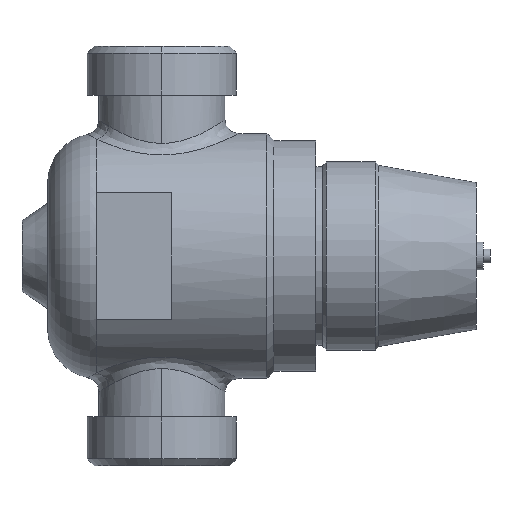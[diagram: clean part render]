
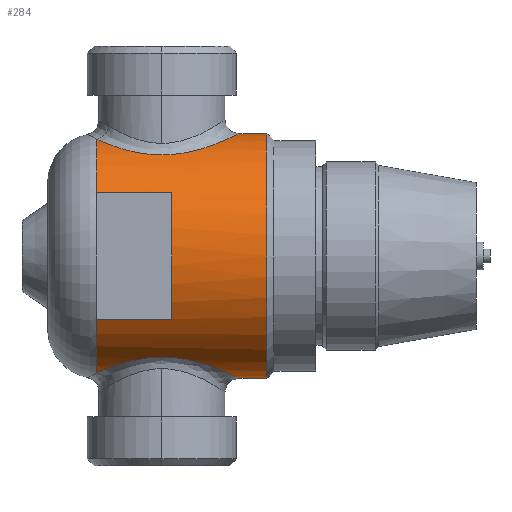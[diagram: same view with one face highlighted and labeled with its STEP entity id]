
A CAD part, left-side view. The second image highlights one B-rep face of the part: STEP entity #284.
In plain terms, the highlighted cylindrical face has radius 17.5 mm (diameter 35 mm), a partial arc.
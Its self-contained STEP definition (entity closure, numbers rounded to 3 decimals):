
#149=CARTESIAN_POINT('',(0.0,-0.199,30.0));
#150=DIRECTION('',(0.,1.0,0.));
#151=DIRECTION('',(0.0,0.0,-1.0));
#152=AXIS2_PLACEMENT_3D('',#149,#150,#151);
#153=CYLINDRICAL_SURFACE('',#152,17.5);
#154=CARTESIAN_POINT('',(0.0,-15.0,12.5));
#155=VERTEX_POINT('',#154);
#156=CARTESIAN_POINT('',(0.,-11.,12.5));
#157=VERTEX_POINT('',#156);
#158=CARTESIAN_POINT('',(0.0,-15.0,12.5));
#159=DIRECTION('',(0.0,1.0,0.0));
#160=VECTOR('',#159,4.);
#161=LINE('',#158,#160);
#162=EDGE_CURVE('',#155,#157,#161,.T.);
#163=ORIENTED_EDGE('',*,*,#162,.F.);
#164=CARTESIAN_POINT('',(0.,-15.,47.5));
#165=VERTEX_POINT('',#164);
#166=CARTESIAN_POINT('',(0.0,-15.0,30.0));
#167=DIRECTION('',(0.0,-1.0,0.0));
#168=DIRECTION('',(0.0,0.0,-1.0));
#169=AXIS2_PLACEMENT_3D('',#166,#167,#168);
#170=CIRCLE('',#169,17.5);
#171=EDGE_CURVE('',#165,#155,#170,.T.);
#172=ORIENTED_EDGE('',*,*,#171,.F.);
#173=CARTESIAN_POINT('',(0.,-11.,47.5));
#174=VERTEX_POINT('',#173);
#175=CARTESIAN_POINT('',(0.,-11.,47.5));
#176=DIRECTION('',(0.0,-1.0,0.0));
#177=VECTOR('',#176,4.0);
#178=LINE('',#175,#177);
#179=EDGE_CURVE('',#174,#165,#178,.T.);
#180=ORIENTED_EDGE('',*,*,#179,.F.);
#181=CARTESIAN_POINT('',(-9.872,0.0,44.45));
#182=VERTEX_POINT('',#181);
#183=CARTESIAN_POINT('',(0.,-11.,47.5));
#184=CARTESIAN_POINT('',(-0.519,-11.,47.5));
#185=CARTESIAN_POINT('',(-1.039,-10.954,47.477));
#186=CARTESIAN_POINT('',(-1.551,-10.863,47.431));
#187=CARTESIAN_POINT('',(-3.876,-10.451,47.224));
#188=CARTESIAN_POINT('',(-5.979,-9.11,46.529));
#189=CARTESIAN_POINT('',(-7.463,-7.201,45.829));
#190=CARTESIAN_POINT('',(-8.969,-5.263,45.119));
#191=CARTESIAN_POINT('',(-9.872,-2.664,44.45));
#192=CARTESIAN_POINT('',(-9.872,0.0,44.45));
#193=B_SPLINE_CURVE_WITH_KNOTS('',3,(#183,#184,#185,#186,#187,#188,#189,#190,#191,#192),.UNSPECIFIED.,.F.,.U.,(4,3,3,4),(41.571,42.935,49.135,55.427),.UNSPECIFIED.);
#194=EDGE_CURVE('',#182,#174,#193,.F.);
#195=ORIENTED_EDGE('',*,*,#194,.F.);
#196=CARTESIAN_POINT('',(-5.27,9.301,46.688));
#197=VERTEX_POINT('',#196);
#198=CARTESIAN_POINT('',(-9.872,0.0,44.45));
#199=CARTESIAN_POINT('',(-9.872,0.844,44.45));
#200=CARTESIAN_POINT('',(-9.783,1.693,44.512));
#201=CARTESIAN_POINT('',(-9.612,2.507,44.624));
#202=CARTESIAN_POINT('',(-9.338,3.81,44.804));
#203=CARTESIAN_POINT('',(-8.856,5.031,45.112));
#204=CARTESIAN_POINT('',(-8.205,6.116,45.457));
#205=CARTESIAN_POINT('',(-7.439,7.393,45.864));
#206=CARTESIAN_POINT('',(-6.447,8.473,46.316));
#207=CARTESIAN_POINT('',(-5.27,9.301,46.688));
#208=B_SPLINE_CURVE_WITH_KNOTS('',3,(#198,#199,#200,#201,#202,#203,#204,#205,#206,#207),.UNSPECIFIED.,.F.,.U.,(4,3,3,4),(0.0,1.994,5.185,8.94),.UNSPECIFIED.);
#209=EDGE_CURVE('',#197,#182,#208,.F.);
#210=ORIENTED_EDGE('',*,*,#209,.F.);
#211=CARTESIAN_POINT('',(-15.003,9.301,39.008));
#212=VERTEX_POINT('',#211);
#213=CARTESIAN_POINT('',(0.0,9.301,30.0));
#214=DIRECTION('',(0.0,1.0,0.0));
#215=DIRECTION('',(0.0,0.0,1.0));
#216=AXIS2_PLACEMENT_3D('',#213,#214,#215);
#217=CIRCLE('',#216,17.5);
#218=EDGE_CURVE('',#212,#197,#217,.T.);
#219=ORIENTED_EDGE('',*,*,#218,.F.);
#220=CARTESIAN_POINT('',(-15.003,-1.442,39.008));
#221=VERTEX_POINT('',#220);
#222=CARTESIAN_POINT('',(-15.003,-1.442,39.008));
#223=DIRECTION('',(0.0,1.0,0.0));
#224=VECTOR('',#223,10.743);
#225=LINE('',#222,#224);
#226=EDGE_CURVE('',#221,#212,#225,.T.);
#227=ORIENTED_EDGE('',*,*,#226,.F.);
#228=CARTESIAN_POINT('',(-15.003,-1.442,20.992));
#229=VERTEX_POINT('',#228);
#230=CARTESIAN_POINT('',(0.0,-1.442,30.0));
#231=DIRECTION('',(0.0,1.0,0.0));
#232=DIRECTION('',(0.0,0.0,-1.0));
#233=AXIS2_PLACEMENT_3D('',#230,#231,#232);
#234=CIRCLE('',#233,17.5);
#235=EDGE_CURVE('',#229,#221,#234,.T.);
#236=ORIENTED_EDGE('',*,*,#235,.F.);
#237=CARTESIAN_POINT('',(-15.003,9.301,20.992));
#238=VERTEX_POINT('',#237);
#239=CARTESIAN_POINT('',(-15.003,9.301,20.992));
#240=DIRECTION('',(0.0,-1.0,0.0));
#241=VECTOR('',#240,10.743);
#242=LINE('',#239,#241);
#243=EDGE_CURVE('',#238,#229,#242,.T.);
#244=ORIENTED_EDGE('',*,*,#243,.F.);
#245=CARTESIAN_POINT('',(-5.27,9.301,13.312));
#246=VERTEX_POINT('',#245);
#247=CARTESIAN_POINT('',(0.0,9.301,30.0));
#248=DIRECTION('',(0.0,1.0,0.0));
#249=DIRECTION('',(0.0,0.0,1.0));
#250=AXIS2_PLACEMENT_3D('',#247,#248,#249);
#251=CIRCLE('',#250,17.5);
#252=EDGE_CURVE('',#246,#238,#251,.T.);
#253=ORIENTED_EDGE('',*,*,#252,.F.);
#254=CARTESIAN_POINT('',(-9.872,0.0,15.55));
#255=VERTEX_POINT('',#254);
#256=CARTESIAN_POINT('',(-5.27,9.301,13.312));
#257=CARTESIAN_POINT('',(-6.096,8.72,13.573));
#258=CARTESIAN_POINT('',(-6.83,8.015,13.873));
#259=CARTESIAN_POINT('',(-7.463,7.201,14.171));
#260=CARTESIAN_POINT('',(-8.969,5.263,14.881));
#261=CARTESIAN_POINT('',(-9.872,2.664,15.55));
#262=CARTESIAN_POINT('',(-9.872,0.0,15.55));
#263=B_SPLINE_CURVE_WITH_KNOTS('',3,(#256,#257,#258,#259,#260,#261,#262),.UNSPECIFIED.,.F.,.U.,(4,3,4),(46.493,49.135,55.427),.UNSPECIFIED.);
#264=EDGE_CURVE('',#255,#246,#263,.F.);
#265=ORIENTED_EDGE('',*,*,#264,.F.);
#266=CARTESIAN_POINT('',(-9.872,0.0,15.55));
#267=CARTESIAN_POINT('',(-9.872,-0.844,15.55));
#268=CARTESIAN_POINT('',(-9.783,-1.693,15.488));
#269=CARTESIAN_POINT('',(-9.612,-2.507,15.376));
#270=CARTESIAN_POINT('',(-9.338,-3.81,15.196));
#271=CARTESIAN_POINT('',(-8.856,-5.031,14.888));
#272=CARTESIAN_POINT('',(-8.205,-6.116,14.543));
#273=CARTESIAN_POINT('',(-7.279,-7.659,14.051));
#274=CARTESIAN_POINT('',(-6.014,-8.924,13.492));
#275=CARTESIAN_POINT('',(-4.512,-9.784,13.092));
#276=CARTESIAN_POINT('',(-3.144,-10.567,12.726));
#277=CARTESIAN_POINT('',(-1.573,-11.,12.5));
#278=CARTESIAN_POINT('',(0.,-11.,12.5));
#279=B_SPLINE_CURVE_WITH_KNOTS('',3,(#266,#267,#268,#269,#270,#271,#272,#273,#274,#275,#276,#277,#278),.UNSPECIFIED.,.F.,.U.,(4,3,3,3,4),(0.0,1.994,5.185,9.724,13.862),.UNSPECIFIED.);
#280=EDGE_CURVE('',#157,#255,#279,.F.);
#281=ORIENTED_EDGE('',*,*,#280,.F.);
#282=EDGE_LOOP('',(#163,#172,#180,#195,#210,#219,#227,#236,#244,#253,#265,#281));
#283=FACE_OUTER_BOUND('',#282,.T.);
#284=ADVANCED_FACE('',(#283),#153,.T.);
